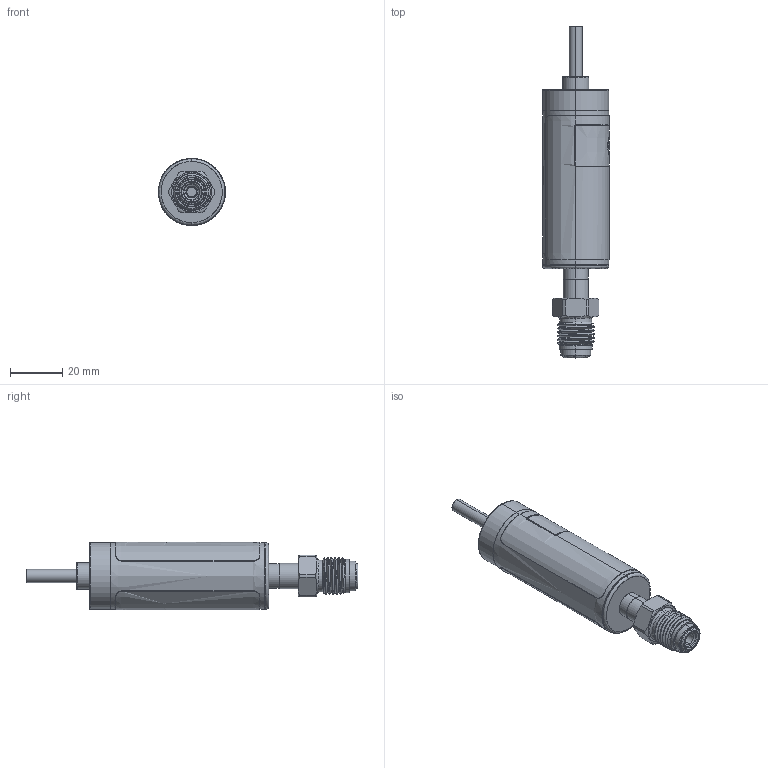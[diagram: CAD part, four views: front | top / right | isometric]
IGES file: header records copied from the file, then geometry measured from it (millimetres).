
Start section: SolidWorks IGES file using analytic representation for surfaces
Global section: file name: R:\Brooks Instrument\25-0024 SSII CAD File Generation\Client Files\SSII CAD Models for Website\CAD for Brooks Website\Example\GSD\GSD-XXXXXX-P-XXX-SM\IGES\GSD-XXXXXX-P-XXX-SM.IGS; native system: SolidWorks 2023; preprocessor: SolidWorks 2023; author: CYatsko; date: 250625.102706; units: inch
Bounding box: 25.65 x 127.13 x 25.76 mm (x, y, z)
Surface area: 17413.7 mm2 (no closed solid volume)
Topology: 0 solids, 0 shells, 235 faces, 3464 edges, 3464 vertices
Faces by surface type: bspline 130, revolution 105
